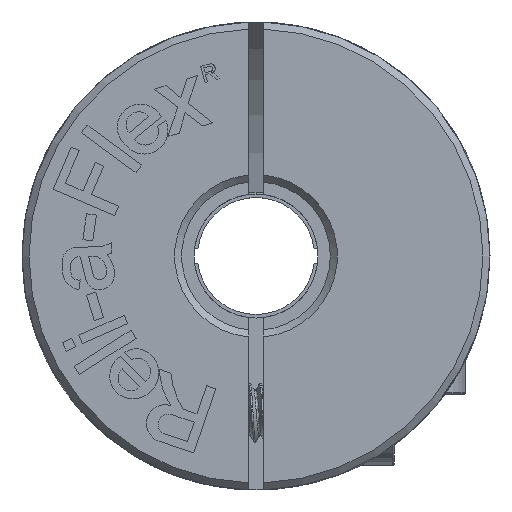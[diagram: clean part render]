
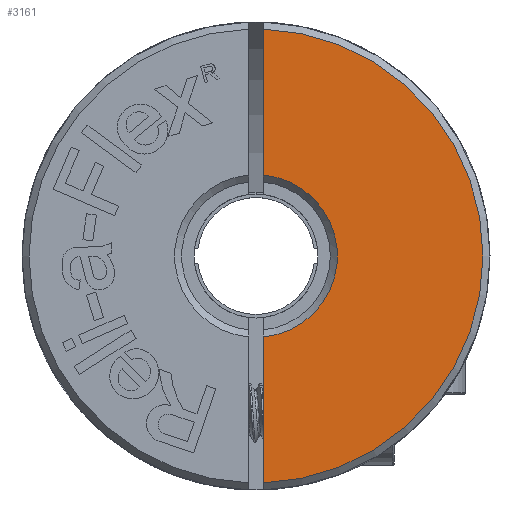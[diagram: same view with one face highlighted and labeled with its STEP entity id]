
A CAD part, front view. The second image highlights one B-rep face of the part: STEP entity #3161.
In plain terms, the highlighted planar face has unit normal (0, -1, 0).
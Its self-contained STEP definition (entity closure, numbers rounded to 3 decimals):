
#16 = EDGE_LOOP ( 'NONE', ( #7194, #7195, #7196, #7197 ) ) ;
#779 = CARTESIAN_POINT ( 'NONE',  ( 0.3, 0., 9.812 ) ) ;
#782 = FACE_OUTER_BOUND ( 'NONE', #16, .T. ) ;
#783 = PLANE ( 'NONE',  #21056 ) ;
#786 = DIRECTION ( 'NONE',  ( 0., -1., 0. ) ) ;
#787 = DIRECTION ( 'NONE',  ( 0., 0., -1. ) ) ;
#2481 = AXIS2_PLACEMENT_3D ( 'NONE', #6305, #6306, #6307 ) ;
#2516 = CIRCLE ( 'NONE', #2481, 3.475 ) ;
#2552 = VECTOR ( 'NONE', #6322, 1000. ) ;
#2682 = AXIS2_PLACEMENT_3D ( 'NONE', #6400, #6401, #6402 ) ;
#2685 = CIRCLE ( 'NONE', #2682, 9.7 ) ;
#2708 = VECTOR ( 'NONE', #6397, 1000. ) ;
#2764 = EDGE_CURVE ( 'NONE', #14663, #14665, #2516, .T. ) ;
#2769 = EDGE_CURVE ( 'NONE', #14661, #14663, #6311, .T. ) ;
#2787 = EDGE_CURVE ( 'NONE', #14662, #14665, #6392, .T. ) ;
#2788 = EDGE_CURVE ( 'NONE', #14661, #14662, #2685, .T. ) ;
#3161 = ADVANCED_FACE ( 'NONE', ( #782 ), #783, .T. ) ;
#6305 = CARTESIAN_POINT ( 'NONE',  ( 0., 0., 0. ) ) ;
#6306 = DIRECTION ( 'NONE',  ( 0., 1., 0. ) ) ;
#6307 = DIRECTION ( 'NONE',  ( 0., 0., -1. ) ) ;
#6311 = LINE ( 'NONE', #6321, #2552 ) ;
#6321 = CARTESIAN_POINT ( 'NONE',  ( 0.3, 0., 0. ) ) ;
#6322 = DIRECTION ( 'NONE',  ( 0., 0., -1. ) ) ;
#6391 = CARTESIAN_POINT ( 'NONE',  ( 0.3, 0., -6.314 ) ) ;
#6392 = LINE ( 'NONE', #6391, #2708 ) ;
#6397 = DIRECTION ( 'NONE',  ( 0., 0., 1. ) ) ;
#6400 = CARTESIAN_POINT ( 'NONE',  ( 0., 0., 0. ) ) ;
#6401 = DIRECTION ( 'NONE',  ( 0., 1., 0. ) ) ;
#6402 = DIRECTION ( 'NONE',  ( 0., 0., 1. ) ) ;
#7194 = ORIENTED_EDGE ( 'NONE', *, *, #2787, .F. ) ;
#7195 = ORIENTED_EDGE ( 'NONE', *, *, #2788, .F. ) ;
#7196 = ORIENTED_EDGE ( 'NONE', *, *, #2769, .T. ) ;
#7197 = ORIENTED_EDGE ( 'NONE', *, *, #2764, .T. ) ;
#14661 = VERTEX_POINT ( 'NONE', #19321 ) ;
#14662 = VERTEX_POINT ( 'NONE', #19322 ) ;
#14663 = VERTEX_POINT ( 'NONE', #19323 ) ;
#14665 = VERTEX_POINT ( 'NONE', #19325 ) ;
#19321 = CARTESIAN_POINT ( 'NONE',  ( 0.3, 0., 9.695 ) ) ;
#19322 = CARTESIAN_POINT ( 'NONE',  ( 0.3, 0., -9.695 ) ) ;
#19323 = CARTESIAN_POINT ( 'NONE',  ( 0.3, 0., 3.462 ) ) ;
#19325 = CARTESIAN_POINT ( 'NONE',  ( 0.3, 0., -3.462 ) ) ;
#21056 = AXIS2_PLACEMENT_3D ( 'NONE', #779, #786, #787 ) ;
